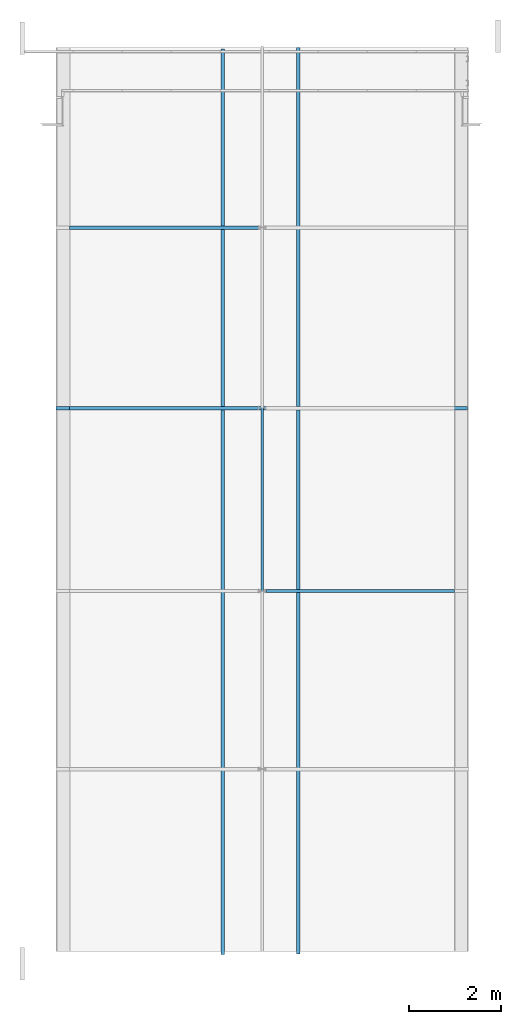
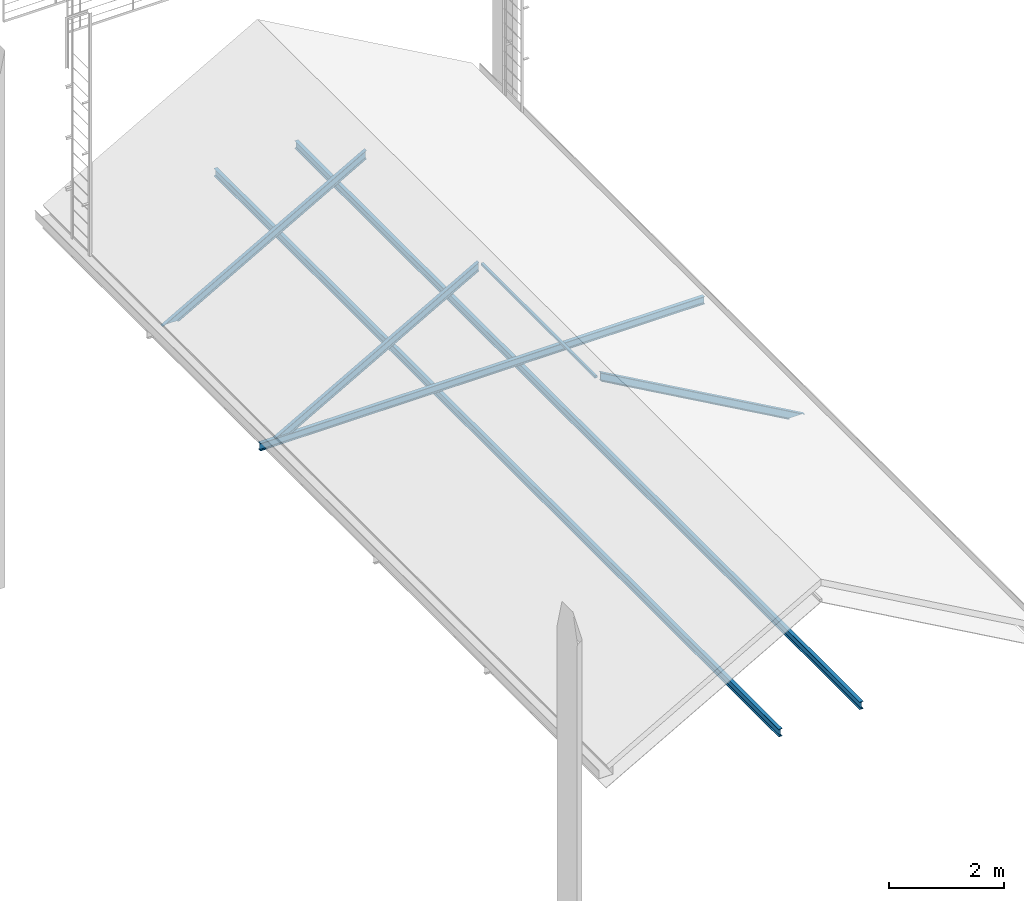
# One storey, part 4 of 10: 7 beams, 3 elements without a shape of their own.
"""IFC2X3 building model written with IfcOpenShell, lengths in metres."""

from ifc_helpers import new_model, entity, si_unit, converted_unit, derived_unit, direction, frame, frame_2d, origin, place, context, subcontext, project, spatial, polyline, circle_curve, parameter, trimmed, segment, composite_curve, rectangle, outline, extrude, clip, halfspace, material, type_object, element, aggregate, save


model = new_model("IFC2X3")

# Units and contexts
model_context = context("Model", 3, precision=1e-05, world=origin(), true_north=direction((6.12303176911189e-17, 1.0)))
body_context = subcontext(model_context, "Body", "Model", "MODEL_VIEW")
ifc_project = project(units=[si_unit("LENGTHUNIT", "METRE"), si_unit("AREAUNIT", "SQUARE_METRE"), si_unit("VOLUMEUNIT", "CUBIC_METRE"), converted_unit("PLANEANGLEUNIT", "DEGREE", entity("IfcRatioMeasure", 0.0174532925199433), si_unit("PLANEANGLEUNIT", "RADIAN"), dimensions=[0, 0, 0, 0, 0, 0, 0]), si_unit("MASSUNIT", "GRAM", prefix="KILO"), derived_unit("MASSDENSITYUNIT", [(si_unit("MASSUNIT", "GRAM", prefix="KILO"), 1), (si_unit("LENGTHUNIT", "METRE"), -3)]), derived_unit("MOMENTOFINERTIAUNIT", [(si_unit("LENGTHUNIT", "METRE"), 4)]), si_unit("TIMEUNIT", "SECOND"), si_unit("FREQUENCYUNIT", "HERTZ"), si_unit("THERMODYNAMICTEMPERATUREUNIT", "DEGREE_CELSIUS"), derived_unit("THERMALTRANSMITTANCEUNIT", [(si_unit("MASSUNIT", "GRAM", prefix="KILO"), 1), (si_unit("THERMODYNAMICTEMPERATUREUNIT", "KELVIN"), -1), (si_unit("TIMEUNIT", "SECOND"), -3)]), derived_unit("VOLUMETRICFLOWRATEUNIT", [(si_unit("LENGTHUNIT", "METRE"), 3), (si_unit("TIMEUNIT", "SECOND"), -1)]), si_unit("ELECTRICCURRENTUNIT", "AMPERE"), si_unit("ELECTRICVOLTAGEUNIT", "VOLT"), si_unit("POWERUNIT", "WATT"), si_unit("FORCEUNIT", "NEWTON", prefix="KILO"), si_unit("ILLUMINANCEUNIT", "LUX"), si_unit("LUMINOUSFLUXUNIT", "LUMEN"), si_unit("LUMINOUSINTENSITYUNIT", "CANDELA"), derived_unit("USERDEFINED", [(si_unit("MASSUNIT", "GRAM", prefix="KILO"), -1), (si_unit("LENGTHUNIT", "METRE"), -2), (si_unit("TIMEUNIT", "SECOND"), 3), (si_unit("LUMINOUSFLUXUNIT", "LUMEN"), 1)]), derived_unit("LINEARVELOCITYUNIT", [(si_unit("LENGTHUNIT", "METRE"), 1), (si_unit("TIMEUNIT", "SECOND"), -1)]), si_unit("PRESSUREUNIT", "PASCAL"), derived_unit("USERDEFINED", [(si_unit("LENGTHUNIT", "METRE"), -2), (si_unit("MASSUNIT", "GRAM", prefix="KILO"), 1), (si_unit("TIMEUNIT", "SECOND"), -2)]), derived_unit("LINEARFORCEUNIT", [(si_unit("MASSUNIT", "GRAM", prefix="KILO"), 1), (si_unit("LENGTHUNIT", "METRE"), 1), (si_unit("TIMEUNIT", "SECOND"), -2), (si_unit("LENGTHUNIT", "METRE"), -1)]), derived_unit("PLANARFORCEUNIT", [(si_unit("MASSUNIT", "GRAM", prefix="KILO"), 1), (si_unit("LENGTHUNIT", "METRE"), 1), (si_unit("TIMEUNIT", "SECOND"), -2), (si_unit("LENGTHUNIT", "METRE"), -2)])], contexts=[model_context])

# Site, building, storey
site_placement = place(None, origin())
site = spatial("IfcSite", under=ifc_project, at=site_placement, Name="Superficie", CompositionType="ELEMENT")
building_placement = place(site_placement, origin())
building = spatial("IfcBuilding", under=site, at=building_placement, Name="Telegestiones", CompositionType="ELEMENT")
storey_placement = place(building_placement, frame((0.0, 0.0, 13.23)))
storey = spatial("IfcBuildingStorey", under=building, at=storey_placement, Name="Nivel 3_SUP", CompositionType="ELEMENT", Elevation=13.23)

# Beams
ifc_material_1 = material(Name="Metal - Acero - 345 MPa")
beam_type_1 = type_object("IfcBeamType", Name="IPN - Secciones en I con alas cónicas:IPN 160", PredefinedType="NOTDEFINED")
beam_1_placement = place(storey_placement, frame((9.64481262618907, -5.80636712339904, 0.0), z_axis=(0.0, 0.0, 1.0), x_axis=(0.0, 1.0, 0.0)))
element("IfcBeam", 1, at=beam_1_placement, inside=storey, type_object=beam_type_1, material=ifc_material_1, Name="IPN - Secciones en I con alas cónicas:IPN 160", ObjectType="IPN - Secciones en I con alas cónicas:IPN 160", context=body_context, shape_type="SweptSolid", body=[
    extrude(outline(composite_curve([segment(polyline([(0.0763950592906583, -0.0370000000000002), (0.0800000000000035, -0.0370000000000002)]), True, "CONTINUOUS"), segment(polyline([(0.0800000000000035, -0.0369999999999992), (0.0800000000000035, 0.0369999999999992)]), True, "CONTINUOUS"), segment(polyline([(0.0800000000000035, 0.0369999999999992), (0.0763950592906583, 0.0369999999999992)]), True, "CONTINUOUS"), segment(trimmed(circle_curve(frame_2d((0.0763950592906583, 0.033199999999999), x_axis=(0.0, 1.0)), 0.00380000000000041), [parameter(0.0)], [parameter(82.0303896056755)], True, "PARAMETER"), True, "CONTINUOUS"), segment(polyline([(0.0726317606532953, 0.03372686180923), (0.0691107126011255, 0.00857651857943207)]), True, "CONTINUOUS"), segment(trimmed(circle_curve(frame_2d((0.0628715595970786, 0.00944999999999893), x_axis=(0.990341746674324, -0.138647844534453)), 0.0062999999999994), [parameter(277.969610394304)], [parameter(0.0)], True, "PARAMETER"), False, "CONTINUOUS"), segment(polyline([(0.0628715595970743, 0.00314999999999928), (-0.06287155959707, 0.00314999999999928)]), True, "CONTINUOUS"), segment(trimmed(circle_curve(frame_2d((-0.0628715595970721, 0.00944999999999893), x_axis=(0.0, -1.0)), 0.00629999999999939), [parameter(277.969610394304)], [parameter(0.0)], True, "PARAMETER"), False, "CONTINUOUS"), segment(polyline([(-0.069110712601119, 0.00857651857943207), (-0.0726317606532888, 0.03372686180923)]), True, "CONTINUOUS"), segment(trimmed(circle_curve(frame_2d((-0.0763950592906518, 0.033199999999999), x_axis=(0.990341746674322, 0.138647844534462)), 0.00380000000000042), [parameter(0.0)], [parameter(82.0303896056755)], True, "PARAMETER"), True, "CONTINUOUS"), segment(polyline([(-0.0763950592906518, 0.0369999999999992), (-0.079999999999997, 0.0369999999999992)]), True, "CONTINUOUS"), segment(polyline([(-0.079999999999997, 0.0369999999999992), (-0.079999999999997, -0.0369999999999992)]), True, "CONTINUOUS"), segment(polyline([(-0.079999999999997, -0.0370000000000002), (-0.0763950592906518, -0.0370000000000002)]), True, "CONTINUOUS"), segment(trimmed(circle_curve(frame_2d((-0.0763950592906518, -0.0332), x_axis=(0.0, -1.0)), 0.00380000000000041), [parameter(0.0)], [parameter(82.0303896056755)], True, "PARAMETER"), True, "CONTINUOUS"), segment(polyline([(-0.0726317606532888, -0.0337268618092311), (-0.069110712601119, -0.00857651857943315)]), True, "CONTINUOUS"), segment(trimmed(circle_curve(frame_2d((-0.0628715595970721, -0.00945000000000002), x_axis=(-0.990341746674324, 0.138647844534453)), 0.0062999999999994), [parameter(277.969610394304)], [parameter(0.0)], True, "PARAMETER"), False, "CONTINUOUS"), segment(polyline([(-0.06287155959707, -0.00315000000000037), (0.0628715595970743, -0.00315000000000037)]), True, "CONTINUOUS"), segment(trimmed(circle_curve(frame_2d((0.0628715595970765, -0.00945000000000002), x_axis=(0.0, 1.0)), 0.00629999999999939), [parameter(277.969610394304)], [parameter(0.0)], True, "PARAMETER"), False, "CONTINUOUS"), segment(polyline([(0.0691107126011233, -0.00857651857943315), (0.0726317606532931, -0.0337268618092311)]), True, "CONTINUOUS"), segment(trimmed(circle_curve(frame_2d((0.0763950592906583, -0.0332), x_axis=(-0.990341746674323, -0.138647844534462)), 0.00380000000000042), [parameter(0.0)], [parameter(82.0303896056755)], True, "PARAMETER"), True, "CONTINUOUS")], self_intersect=False)), frame((-0.0687141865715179, 0.0, -0.0800000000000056), z_axis=(1.0, 0.0, 0.0), x_axis=(0.0, 0.0, -1.0)), (0.0, 0.0, 1.0), 19.595201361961),
])
beam_2_placement = place(storey_placement, frame((11.2748126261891, 13.7436072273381, 0.0), z_axis=(0.0, 0.0, 1.0), x_axis=(0.0, -1.0, 0.0)))
element("IfcBeam", 2, at=beam_2_placement, inside=storey, type_object=beam_type_1, material=ifc_material_1, Name="IPN - Secciones en I con alas cónicas:IPN 160", ObjectType="IPN - Secciones en I con alas cónicas:IPN 160", context=body_context, shape_type="SweptSolid", body=[
    extrude(outline(composite_curve([segment(polyline([(0.0763950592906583, -0.0370000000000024), (0.0800000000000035, -0.0370000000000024)]), True, "CONTINUOUS"), segment(polyline([(0.0800000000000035, -0.0370000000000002), (0.0800000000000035, 0.0369999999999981)]), True, "CONTINUOUS"), segment(polyline([(0.0800000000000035, 0.0369999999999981), (0.0763950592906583, 0.0369999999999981)]), True, "CONTINUOUS"), segment(trimmed(circle_curve(frame_2d((0.0763950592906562, 0.033199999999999), x_axis=(0.0, 1.0)), 0.00379999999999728), [parameter(0.0)], [parameter(82.0303896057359)], True, "PARAMETER"), True, "CONTINUOUS"), segment(polyline([(0.0726317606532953, 0.03372686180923), (0.0691107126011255, 0.00857651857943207)]), True, "CONTINUOUS"), segment(trimmed(circle_curve(frame_2d((0.0628715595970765, 0.00944999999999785), x_axis=(0.990341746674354, -0.138647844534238)), 0.00630000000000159), [parameter(277.969610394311)], [parameter(0.0)], True, "PARAMETER"), False, "CONTINUOUS"), segment(polyline([(0.0628715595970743, 0.00314999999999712), (-0.06287155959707, 0.00314999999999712)]), True, "CONTINUOUS"), segment(trimmed(circle_curve(frame_2d((-0.06287155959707, 0.00944999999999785), x_axis=(0.0, -1.0)), 0.00630000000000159), [parameter(277.969610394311)], [parameter(0.0)], True, "PARAMETER"), False, "CONTINUOUS"), segment(polyline([(-0.069110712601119, 0.00857651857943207), (-0.0726317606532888, 0.0337268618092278)]), True, "CONTINUOUS"), segment(trimmed(circle_curve(frame_2d((-0.0763950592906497, 0.033199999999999), x_axis=(0.99034174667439, 0.138647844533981)), 0.00379999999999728), [parameter(0.0)], [parameter(82.0303896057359)], True, "PARAMETER"), True, "CONTINUOUS"), segment(polyline([(-0.0763950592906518, 0.0369999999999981), (-0.079999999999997, 0.0369999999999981)]), True, "CONTINUOUS"), segment(polyline([(-0.079999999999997, 0.0369999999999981), (-0.079999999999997, -0.0370000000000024)]), True, "CONTINUOUS"), segment(polyline([(-0.079999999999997, -0.0370000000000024), (-0.0763950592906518, -0.0370000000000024)]), True, "CONTINUOUS"), segment(trimmed(circle_curve(frame_2d((-0.0763950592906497, -0.0332000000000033), x_axis=(0.0, -1.0)), 0.00379999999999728), [parameter(0.0)], [parameter(82.0303896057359)], True, "PARAMETER"), True, "CONTINUOUS"), segment(polyline([(-0.0726317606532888, -0.0337268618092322), (-0.069110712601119, -0.0085765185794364)]), True, "CONTINUOUS"), segment(trimmed(circle_curve(frame_2d((-0.06287155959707, -0.00945000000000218), x_axis=(-0.990341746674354, 0.138647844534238)), 0.00630000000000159), [parameter(277.969610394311)], [parameter(0.0)], True, "PARAMETER"), False, "CONTINUOUS"), segment(polyline([(-0.06287155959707, -0.00315000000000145), (0.0628715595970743, -0.00315000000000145)]), True, "CONTINUOUS"), segment(trimmed(circle_curve(frame_2d((0.0628715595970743, -0.00945000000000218), x_axis=(0.0, 1.0)), 0.00630000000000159), [parameter(277.969610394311)], [parameter(0.0)], True, "PARAMETER"), False, "CONTINUOUS"), segment(polyline([(0.0691107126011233, -0.00857651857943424), (0.0726317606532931, -0.0337268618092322)]), True, "CONTINUOUS"), segment(trimmed(circle_curve(frame_2d((0.0763950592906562, -0.0332000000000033), x_axis=(-0.99034174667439, -0.138647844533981)), 0.00379999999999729), [parameter(0.0)], [parameter(82.0303896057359)], True, "PARAMETER"), True, "CONTINUOUS")], self_intersect=False)), frame((0.0, 0.0, -0.0800000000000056), z_axis=(1.0, 0.0, 0.0), x_axis=(0.0, 0.0, -1.0)), (0.0, 0.0, 1.0), 19.607),
])

# Assembly, beam
assembly_1_placement = place(storey_placement, origin())
assembly_1 = element("IfcElementAssembly", 3, at=assembly_1_placement, inside=storey, Name="EST-CER-Hi:Estándar", ObjectType="EST-CER-Hi:Estándar", AssemblyPlace="NOTDEFINED", PredefinedType="TRUSS")
beam_3_placement = place(assembly_1_placement, frame((10.4934837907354, 1.98960722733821, 2.42000000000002), z_axis=(0.491850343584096, 0.0, 0.870679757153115), x_axis=(0.870679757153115, 0.0, -0.491850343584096)))
beam_3 = element("IfcBeam", 4, at=beam_3_placement, type_object=beam_type_1, material=ifc_material_1, Name="IPN - Secciones en I con alas cónicas:IPN 160", ObjectType="IPN - Secciones en I con alas cónicas:IPN 160", context=body_context, shape_type="SweptSolid", body=[
    clip(clip(extrude(outline(composite_curve([segment(polyline([(0.0763950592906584, -0.0369999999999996), (0.0800000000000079, -0.0369999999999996)]), True, "CONTINUOUS"), segment(polyline([(0.0800000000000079, -0.0369999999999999), (0.0800000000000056, 0.0369999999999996)]), True, "CONTINUOUS"), segment(polyline([(0.0800000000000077, 0.0369999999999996), (0.0763950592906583, 0.0369999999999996)]), True, "CONTINUOUS"), segment(trimmed(circle_curve(frame_2d((0.0763950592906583, 0.0332000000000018), x_axis=(0.0, 1.0)), 0.0037999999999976), [parameter(0.0)], [parameter(82.0303896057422)], True, "PARAMETER"), True, "CONTINUOUS"), segment(polyline([(0.0726317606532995, 0.0337268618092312), (0.0691107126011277, 0.00857651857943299)]), True, "CONTINUOUS"), segment(trimmed(circle_curve(frame_2d((0.0628715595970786, 0.00944999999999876), x_axis=(0.990341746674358, -0.138647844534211)), 0.00629999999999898), [parameter(277.96961039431)], [parameter(0.0)], True, "PARAMETER"), False, "CONTINUOUS"), segment(polyline([(0.0628715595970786, 0.00314999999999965), (-0.0628715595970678, 0.00314999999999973)]), True, "CONTINUOUS"), segment(trimmed(circle_curve(frame_2d((-0.0628715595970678, 0.00944999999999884), x_axis=(0.0, -1.0)), 0.00629999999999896), [parameter(277.96961039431)], [parameter(0.0)], True, "PARAMETER"), False, "CONTINUOUS"), segment(polyline([(-0.0691107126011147, 0.00857651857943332), (-0.0726317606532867, 0.0337268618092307)]), True, "CONTINUOUS"), segment(trimmed(circle_curve(frame_2d((-0.0763950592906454, 0.0332000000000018), x_axis=(0.990341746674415, 0.138647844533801)), 0.00379999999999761), [parameter(0.0)], [parameter(82.0303896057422)], True, "PARAMETER"), True, "CONTINUOUS"), segment(polyline([(-0.0763950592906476, 0.0369999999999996), (-0.0799999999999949, 0.0369999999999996)]), True, "CONTINUOUS"), segment(polyline([(-0.0799999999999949, 0.0369999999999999), (-0.0799999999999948, -0.0369999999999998)]), True, "CONTINUOUS"), segment(polyline([(-0.0799999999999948, -0.0369999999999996), (-0.0763950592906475, -0.0369999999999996)]), True, "CONTINUOUS"), segment(trimmed(circle_curve(frame_2d((-0.0763950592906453, -0.0332000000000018), x_axis=(0.0, -1.0)), 0.00379999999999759), [parameter(0.0)], [parameter(82.030389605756)], True, "PARAMETER"), True, "CONTINUOUS"), segment(polyline([(-0.0726317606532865, -0.0337268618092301), (-0.0691107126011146, -0.00857651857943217)]), True, "CONTINUOUS"), segment(trimmed(circle_curve(frame_2d((-0.0628715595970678, -0.00944999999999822), x_axis=(-0.990341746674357, 0.138647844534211)), 0.00629999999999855), [parameter(277.96961039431)], [parameter(0.0)], True, "PARAMETER"), False, "CONTINUOUS"), segment(polyline([(-0.0628715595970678, -0.00314999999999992), (0.0628715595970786, -0.00314999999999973)]), True, "CONTINUOUS"), segment(trimmed(circle_curve(frame_2d((0.0628715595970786, -0.00944999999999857), x_axis=(0.0, 1.0)), 0.00629999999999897), [parameter(277.96961039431)], [parameter(0.0)], True, "PARAMETER"), False, "CONTINUOUS"), segment(polyline([(0.0691107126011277, -0.00857651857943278), (0.0726317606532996, -0.0337268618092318)]), True, "CONTINUOUS"), segment(trimmed(circle_curve(frame_2d((0.0763950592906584, -0.0332000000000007), x_axis=(-0.990341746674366, -0.138647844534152)), 0.0037999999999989), [parameter(0.0)], [parameter(82.0303896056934)], True, "PARAMETER"), True, "CONTINUOUS")], self_intersect=False)), frame((0.0466899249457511, 0.0, 0.0), z_axis=(1.0, 0.0, 0.0), x_axis=(0.0, 0.0, -1.0)), (0.0, 0.0, 1.0), 4.68982070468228), halfspace(frame((-2.77164994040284, -0.0370000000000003, -4.16138878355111), z_axis=(0.491850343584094, 0.0, -0.870679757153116), x_axis=(0.870679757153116, 0.0, 0.491850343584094)), False)), halfspace(frame((1.1812361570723, 0.037, -1.92838822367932), z_axis=(-0.870679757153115, 0.0, -0.491850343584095), x_axis=(-0.491850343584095, 0.0, 0.870679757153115)), False)),
])
aggregate(assembly_1, [beam_3])

# Assembly, beams
assembly_2_placement = place(storey_placement, origin())
assembly_2 = element("IfcElementAssembly", 5, at=assembly_2_placement, inside=storey, Name="EST-CER-Hi:Estándar", ObjectType="EST-CER-Hi:Estándar", AssemblyPlace="NOTDEFINED", PredefinedType="TRUSS")
beam_4_placement = place(assembly_2_placement, frame((6.03348379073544, 5.9446072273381, 0.070000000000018)))
beam_4 = element("IfcBeam", 6, at=beam_4_placement, type_object=beam_type_1, material=ifc_material_1, Name="IPN - Secciones en I con alas cónicas:IPN 160", ObjectType="IPN - Secciones en I con alas cónicas:IPN 160", context=body_context, shape_type="SweptSolid", body=[
    extrude(outline(composite_curve([segment(polyline([(0.0763950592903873, -0.0370000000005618), (0.0799999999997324, -0.0370000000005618)]), True, "CONTINUOUS"), segment(polyline([(0.0799999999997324, -0.0370000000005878), (0.0800000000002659, 0.0369999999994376)]), True, "CONTINUOUS"), segment(polyline([(0.0800000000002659, 0.0369999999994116), (0.0763950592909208, 0.0369999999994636)]), True, "CONTINUOUS"), segment(trimmed(circle_curve(frame_2d((0.0763950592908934, 0.0331999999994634), x_axis=(0.0, 1.0)), 0.00380000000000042), [parameter(0.0)], [parameter(82.0303896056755)], True, "PARAMETER"), True, "CONTINUOUS"), segment(polyline([(0.0726317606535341, 0.0337268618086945), (0.0691107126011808, 0.00857651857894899)]), True, "CONTINUOUS"), segment(trimmed(circle_curve(frame_2d((0.0628715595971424, 0.00944999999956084), x_axis=(0.990341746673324, -0.138647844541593)), 0.00629999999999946), [parameter(277.969610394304)], [parameter(0.0)], True, "PARAMETER"), False, "CONTINUOUS"), segment(polyline([(0.0628715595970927, 0.0031499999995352), (-0.0628715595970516, 0.0031500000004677)]), True, "CONTINUOUS"), segment(trimmed(circle_curve(frame_2d((-0.0628715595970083, 0.00945000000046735), x_axis=(0.0, -1.0)), 0.00629999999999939), [parameter(277.969610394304)], [parameter(0.0)], True, "PARAMETER"), False, "CONTINUOUS"), segment(polyline([(-0.0691107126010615, 0.00857651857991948), (-0.07263176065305, 0.0337268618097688)]), True, "CONTINUOUS"), segment(trimmed(circle_curve(frame_2d((-0.0763950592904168, 0.0332000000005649), x_axis=(0.990341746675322, 0.138647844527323)), 0.00380000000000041), [parameter(0.0)], [parameter(82.0303896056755)], True, "PARAMETER"), True, "CONTINUOUS"), segment(polyline([(-0.0763950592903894, 0.0370000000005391), (-0.0799999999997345, 0.0370000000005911)]), True, "CONTINUOUS"), segment(polyline([(-0.0799999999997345, 0.0370000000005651), (-0.080000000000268, -0.0369999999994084)]), True, "CONTINUOUS"), segment(polyline([(-0.080000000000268, -0.0369999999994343), (-0.0763950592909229, -0.0369999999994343)]), True, "CONTINUOUS"), segment(trimmed(circle_curve(frame_2d((-0.0763950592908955, -0.0331999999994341), x_axis=(0.0, -1.0)), 0.00380000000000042), [parameter(0.0)], [parameter(82.0303896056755)], True, "PARAMETER"), True, "CONTINUOUS"), segment(polyline([(-0.0726317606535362, -0.0337268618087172), (-0.069110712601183, -0.00857651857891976)]), True, "CONTINUOUS"), segment(trimmed(circle_curve(frame_2d((-0.0628715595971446, -0.0094499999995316), x_axis=(-0.990341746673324, 0.138647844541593)), 0.00629999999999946), [parameter(277.969610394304)], [parameter(0.0)], True, "PARAMETER"), False, "CONTINUOUS"), segment(polyline([(-0.062871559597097, -0.00314999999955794), (0.0628715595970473, -0.00315000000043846)]), True, "CONTINUOUS"), segment(trimmed(circle_curve(frame_2d((0.062871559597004, -0.00945000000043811), x_axis=(0.0, 1.0)), 0.00629999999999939), [parameter(277.969610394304)], [parameter(0.0)], True, "PARAMETER"), False, "CONTINUOUS"), segment(polyline([(0.0691107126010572, -0.00857651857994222), (0.0726317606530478, -0.0337268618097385)]), True, "CONTINUOUS"), segment(trimmed(circle_curve(frame_2d((0.0763950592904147, -0.0332000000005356), x_axis=(-0.990341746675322, -0.138647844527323)), 0.00380000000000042), [parameter(0.0)], [parameter(82.0303896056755)], True, "PARAMETER"), True, "CONTINUOUS")], self_intersect=False)), frame((0.0, 0.0, 0.00999999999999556), z_axis=(1.0, 0.0, 0.0), x_axis=(0.0, 0.0, -1.0)), (0.0, 0.0, 1.0), 8.89907373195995),
])
beam_5_placement = place(assembly_2_placement, frame((6.33348379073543, 5.9446072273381, 0.0700000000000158), z_axis=(-0.491850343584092, 0.0, 0.870679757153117), x_axis=(0.870679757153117, 0.0, 0.491850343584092)))
beam_5 = element("IfcBeam", 7, at=beam_5_placement, type_object=beam_type_1, material=ifc_material_1, Name="IPN - Secciones en I con alas cónicas:IPN 160", ObjectType="IPN - Secciones en I con alas cónicas:IPN 160", context=body_context, shape_type="SweptSolid", body=[
    clip(clip(extrude(outline(composite_curve([segment(polyline([(0.0763950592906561, -0.0370000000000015), (0.0800000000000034, -0.0370000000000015)]), True, "CONTINUOUS"), segment(polyline([(0.0800000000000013, -0.0370000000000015), (0.0800000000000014, 0.036999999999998)]), True, "CONTINUOUS"), segment(polyline([(0.0800000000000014, 0.036999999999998), (0.0763950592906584, 0.036999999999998)]), True, "CONTINUOUS"), segment(trimmed(circle_curve(frame_2d((0.0763950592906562, 0.033200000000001), x_axis=(0.0, 1.0)), 0.00379999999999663), [parameter(0.0)], [parameter(82.030389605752)], True, "PARAMETER"), True, "CONTINUOUS"), segment(polyline([(0.0726317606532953, 0.0337268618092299), (0.0691107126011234, 0.00857651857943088)]), True, "CONTINUOUS"), segment(trimmed(circle_curve(frame_2d((0.0628715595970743, 0.00944999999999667), x_axis=(0.990341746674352, -0.138647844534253)), 0.0062999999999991), [parameter(277.969610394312)], [parameter(0.0)], True, "PARAMETER"), False, "CONTINUOUS"), segment(polyline([(0.0628715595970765, 0.0031499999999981), (-0.0628715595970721, 0.00314999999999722)]), True, "CONTINUOUS"), segment(trimmed(circle_curve(frame_2d((-0.0628715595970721, 0.00944999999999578), x_axis=(0.0, -1.0)), 0.00629999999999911), [parameter(277.969610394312)], [parameter(0.0)], True, "PARAMETER"), False, "CONTINUOUS"), segment(polyline([(-0.069110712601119, 0.00857651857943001), (-0.0726317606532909, 0.0337268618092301)]), True, "CONTINUOUS"), segment(trimmed(circle_curve(frame_2d((-0.0763950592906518, 0.033199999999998), x_axis=(0.990341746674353, 0.138647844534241)), 0.00379999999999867), [parameter(0.0)], [parameter(82.0303896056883)], True, "PARAMETER"), True, "CONTINUOUS"), segment(polyline([(-0.0763950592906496, 0.0369999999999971), (-0.0799999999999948, 0.0369999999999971)]), True, "CONTINUOUS"), segment(polyline([(-0.0799999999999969, 0.0369999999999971), (-0.0799999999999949, -0.0370000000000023)]), True, "CONTINUOUS"), segment(polyline([(-0.0799999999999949, -0.0370000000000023), (-0.0763950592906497, -0.0370000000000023)]), True, "CONTINUOUS"), segment(trimmed(circle_curve(frame_2d((-0.0763950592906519, -0.0332000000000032), x_axis=(0.0, -1.0)), 0.00379999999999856), [parameter(0.0)], [parameter(82.0303896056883)], True, "PARAMETER"), True, "CONTINUOUS"), segment(polyline([(-0.0726317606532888, -0.0337268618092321), (-0.0691107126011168, -0.00857651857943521)]), True, "CONTINUOUS"), segment(trimmed(circle_curve(frame_2d((-0.0628715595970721, -0.009450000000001), x_axis=(-0.990341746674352, 0.138647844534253)), 0.00629999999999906), [parameter(277.969610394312)], [parameter(0.0)], True, "PARAMETER"), False, "CONTINUOUS"), segment(polyline([(-0.0628715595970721, -0.00315000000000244), (0.0628715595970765, -0.00315000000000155)]), True, "CONTINUOUS"), segment(trimmed(circle_curve(frame_2d((0.0628715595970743, -0.00945000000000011), x_axis=(0.0, 1.0)), 0.00629999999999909), [parameter(277.969610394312)], [parameter(0.0)], True, "PARAMETER"), False, "CONTINUOUS"), segment(polyline([(0.0691107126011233, -0.00857651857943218), (0.0726317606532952, -0.0337268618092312)]), True, "CONTINUOUS"), segment(trimmed(circle_curve(frame_2d((0.0763950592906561, -0.0332000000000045), x_axis=(-0.990341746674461, -0.138647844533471)), 0.00379999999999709), [parameter(0.0)], [parameter(82.0303896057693)], True, "PARAMETER"), True, "CONTINUOUS")], self_intersect=False)), frame((0.0413654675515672, 0.0, 0.0), z_axis=(1.0, 0.0, 0.0), x_axis=(0.0, 0.0, -1.0)), (0.0, 0.0, 1.0), 4.68982070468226), halfspace(frame((-0.216937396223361, -0.0370000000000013, 0.225916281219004), z_axis=(-0.491850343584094, 0.0, -0.870679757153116), x_axis=(0.870679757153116, 0.0, -0.491850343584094)), False)), halfspace(frame((3.59663994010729, -0.0369999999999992, -1.92838822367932), z_axis=(0.870679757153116, 0.0, -0.491850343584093), x_axis=(0.491850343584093, 0.0, 0.870679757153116)), False)),
])
aggregate(assembly_2, [beam_4, beam_5])

# Assembly, beam
assembly_3_placement = place(storey_placement, origin())
assembly_3 = element("IfcElementAssembly", 8, at=assembly_3_placement, inside=storey, Name="EST-CER-Hi:Estándar", ObjectType="EST-CER-Hi:Estándar", AssemblyPlace="NOTDEFINED", PredefinedType="TRUSS")
beam_6_placement = place(assembly_3_placement, frame((6.33348379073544, 9.85160722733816, 0.0700000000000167), z_axis=(-0.491850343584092, 0.0, 0.870679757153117), x_axis=(0.870679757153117, 0.0, 0.491850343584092)))
beam_6 = element("IfcBeam", 9, at=beam_6_placement, type_object=beam_type_1, material=ifc_material_1, Name="IPN - Secciones en I con alas cónicas:IPN 160", ObjectType="IPN - Secciones en I con alas cónicas:IPN 160", context=body_context, shape_type="SweptSolid", body=[
    clip(clip(extrude(outline(composite_curve([segment(polyline([(0.0763950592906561, -0.0370000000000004), (0.0800000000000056, -0.0370000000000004)]), True, "CONTINUOUS"), segment(polyline([(0.0800000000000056, -0.0369999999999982), (0.0800000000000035, 0.0370000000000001)]), True, "CONTINUOUS"), segment(polyline([(0.0800000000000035, 0.0370000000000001), (0.0763950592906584, 0.0370000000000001)]), True, "CONTINUOUS"), segment(trimmed(circle_curve(frame_2d((0.0763950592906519, 0.0332000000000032), x_axis=(0.0, 1.0)), 0.00379999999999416), [parameter(0.0)], [parameter(82.0303896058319)], True, "PARAMETER"), True, "CONTINUOUS"), segment(polyline([(0.0726317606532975, 0.0337268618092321), (0.0691107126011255, 0.00857651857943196)]), True, "CONTINUOUS"), segment(trimmed(circle_curve(frame_2d((0.0628715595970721, 0.00945000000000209), x_axis=(0.990341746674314, -0.138647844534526)), 0.00630000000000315), [parameter(277.969610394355)], [parameter(0.0)], True, "PARAMETER"), False, "CONTINUOUS"), segment(polyline([(0.0628715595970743, 0.00314999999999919), (-0.0628715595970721, 0.00314999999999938)]), True, "CONTINUOUS"), segment(trimmed(circle_curve(frame_2d((-0.06287155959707, 0.00945000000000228), x_axis=(0.0, -1.0)), 0.00630000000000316), [parameter(277.969610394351)], [parameter(0.0)], True, "PARAMETER"), False, "CONTINUOUS"), segment(polyline([(-0.069110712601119, 0.00857651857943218), (-0.072631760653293, 0.0337268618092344)]), True, "CONTINUOUS"), segment(trimmed(circle_curve(frame_2d((-0.0763950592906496, 0.0332000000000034), x_axis=(0.990341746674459, 0.13864784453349)), 0.00379999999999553), [parameter(0.0)], [parameter(82.0303896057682)], True, "PARAMETER"), True, "CONTINUOUS"), segment(polyline([(-0.0763950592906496, 0.0370000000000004), (-0.0799999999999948, 0.0370000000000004)]), True, "CONTINUOUS"), segment(polyline([(-0.0799999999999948, 0.0369999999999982), (-0.0799999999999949, -0.0370000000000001)]), True, "CONTINUOUS"), segment(polyline([(-0.0799999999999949, -0.0370000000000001), (-0.0763950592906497, -0.0370000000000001)]), True, "CONTINUOUS"), segment(trimmed(circle_curve(frame_2d((-0.0763950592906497, -0.0332000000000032), x_axis=(0.0, -1.0)), 0.00379999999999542), [parameter(0.0)], [parameter(82.0303896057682)], True, "PARAMETER"), True, "CONTINUOUS"), segment(polyline([(-0.0726317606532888, -0.0337268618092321), (-0.0691107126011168, -0.00857651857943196)]), True, "CONTINUOUS"), segment(trimmed(circle_curve(frame_2d((-0.06287155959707, -0.00945000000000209), x_axis=(-0.990341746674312, 0.138647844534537)), 0.00630000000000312), [parameter(277.969610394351)], [parameter(0.0)], True, "PARAMETER"), False, "CONTINUOUS"), segment(polyline([(-0.06287155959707, -0.00314999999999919), (0.0628715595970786, -0.00314999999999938)]), True, "CONTINUOUS"), segment(trimmed(circle_curve(frame_2d((0.0628715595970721, -0.00945000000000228), x_axis=(0.0, 1.0)), 0.00630000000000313), [parameter(277.969610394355)], [parameter(0.0)], True, "PARAMETER"), False, "CONTINUOUS"), segment(polyline([(0.0691107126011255, -0.00857651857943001), (0.0726317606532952, -0.0337268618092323)]), True, "CONTINUOUS"), segment(trimmed(circle_curve(frame_2d((0.0763950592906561, -0.0332000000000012), x_axis=(-0.990341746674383, -0.13864784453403)), 0.00379999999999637), [parameter(0.0)], [parameter(82.030389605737)], True, "PARAMETER"), True, "CONTINUOUS")], self_intersect=False)), frame((0.041365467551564, 0.0, 0.0), z_axis=(1.0, 0.0, 0.0), x_axis=(0.0, 0.0, -1.0)), (0.0, 0.0, 1.0), 4.68982070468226), halfspace(frame((-0.216937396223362, -0.0370000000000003, 0.225916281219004), z_axis=(-0.491850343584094, 0.0, -0.870679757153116), x_axis=(0.870679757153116, 0.0, -0.491850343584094)), False)), halfspace(frame((3.59663994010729, -0.0370000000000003, -1.92838822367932), z_axis=(0.870679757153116, 0.0, -0.491850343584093), x_axis=(0.491850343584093, 0.0, 0.870679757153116)), False)),
])
aggregate(assembly_3, [beam_6])

# Beam
ifc_material_2 = material(Name="Madera - Madera de construcción")
beam_type_2 = type_object("IfcBeamType", Name="Madera:50x50mm", PredefinedType="NOTDEFINED")
beam_7_placement = place(storey_placement, frame((10.4934837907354, 1.98960722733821, 2.41), z_axis=(0.0, 0.0, 1.0), x_axis=(0.0, 1.0, 0.0)))
element("IfcBeam", 10, at=beam_7_placement, inside=storey, type_object=beam_type_2, material=ifc_material_2, Name="Madera:50x50mm", ObjectType="Madera:50x50mm", context=body_context, shape_type="SweptSolid", body=[
    extrude(rectangle(XDim=0.0499999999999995, YDim=0.0500000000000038, at=frame_2d((-1.08246744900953e-15, 1.08246744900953e-15), x_axis=(1.0, 0.0))), frame((0.00507887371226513, 0.0, -0.025000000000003), z_axis=(1.0, 0.0, 0.0), x_axis=(0.0, 0.0, -1.0)), (0.0, 0.0, 1.0), 3.94992112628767),
])

save(model, "model.ifc")
